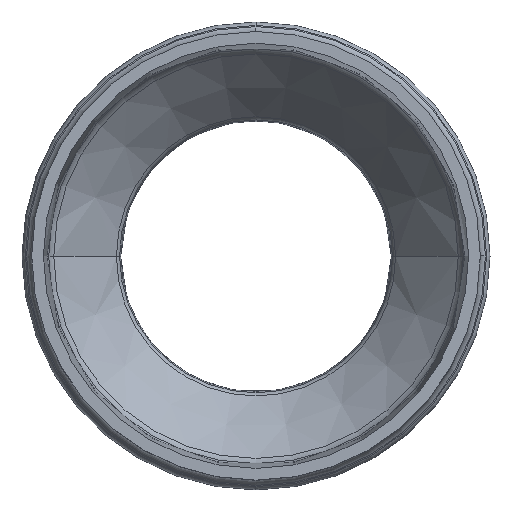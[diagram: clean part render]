
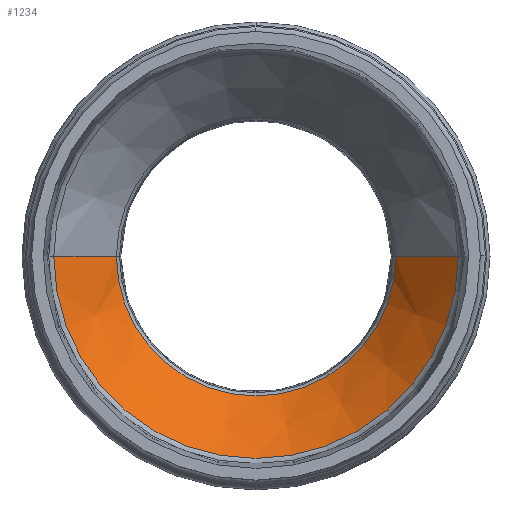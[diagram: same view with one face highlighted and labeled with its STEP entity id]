
A CAD part, top view. The second image highlights one B-rep face of the part: STEP entity #1234.
In plain terms, the highlighted conical face has half-angle 40.475 degrees and reference radius 58.9 mm.
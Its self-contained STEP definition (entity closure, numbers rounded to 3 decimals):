
#119=CARTESIAN_POINT('',(0.,0.,2.939));
#120=DIRECTION('',(0.,0.,1.));
#121=DIRECTION('',(-1.,0.,0.));
#122=AXIS2_PLACEMENT_3D('',#119,#120,#121);
#143=DIRECTION('',(0.649,0.,0.761));
#144=VECTOR('',#143,33.263);
#145=CARTESIAN_POINT('',(48.104,0.,2.939));
#146=LINE('',#145,#144);
#150=DIRECTION('',(-0.649,0.,0.761));
#151=VECTOR('',#150,33.263);
#152=CARTESIAN_POINT('',(-48.104,0.,2.939));
#153=LINE('',#152,#151);
#157=CARTESIAN_POINT('',(0.,0.,28.241));
#158=DIRECTION('',(0.,0.,-1.));
#159=DIRECTION('',(1.,0.,0.));
#160=AXIS2_PLACEMENT_3D('',#157,#158,#159);
#1005=CARTESIAN_POINT('',(-48.104,0.,2.939));
#1006=CARTESIAN_POINT('',(-69.695,0.,28.241));
#1007=VERTEX_POINT('',#1005);
#1008=VERTEX_POINT('',#1006);
#1009=CARTESIAN_POINT('',(48.104,0.,2.939));
#1010=CARTESIAN_POINT('',(69.695,0.,28.241));
#1011=VERTEX_POINT('',#1009);
#1012=VERTEX_POINT('',#1010);
#1222=CARTESIAN_POINT('',(0.,0.,15.59));
#1223=DIRECTION('',(0.,0.,1.));
#1224=DIRECTION('',(1.,0.,0.));
#1225=AXIS2_PLACEMENT_3D('',#1222,#1223,#1224);
#1226=CONICAL_SURFACE('',#1225,58.9,40.475);
#1227=ORIENTED_EDGE('',*,*,#1213,.T.);
#1228=ORIENTED_EDGE('',*,*,#1188,.T.);
#1230=ORIENTED_EDGE('',*,*,#1229,.T.);
#1231=ORIENTED_EDGE('',*,*,#1185,.F.);
#1232=EDGE_LOOP('',(#1227,#1228,#1230,#1231));
#1233=FACE_OUTER_BOUND('',#1232,.F.);
#123=CIRCLE('',#122,48.104);
#161=CIRCLE('',#160,69.695);
#1185=EDGE_CURVE('',#1007,#1008,#153,.T.);
#1188=EDGE_CURVE('',#1011,#1012,#146,.T.);
#1213=EDGE_CURVE('',#1007,#1011,#123,.T.);
#1229=EDGE_CURVE('',#1012,#1008,#161,.T.);
#1234=ADVANCED_FACE('',(#1233),#1226,.F.);
